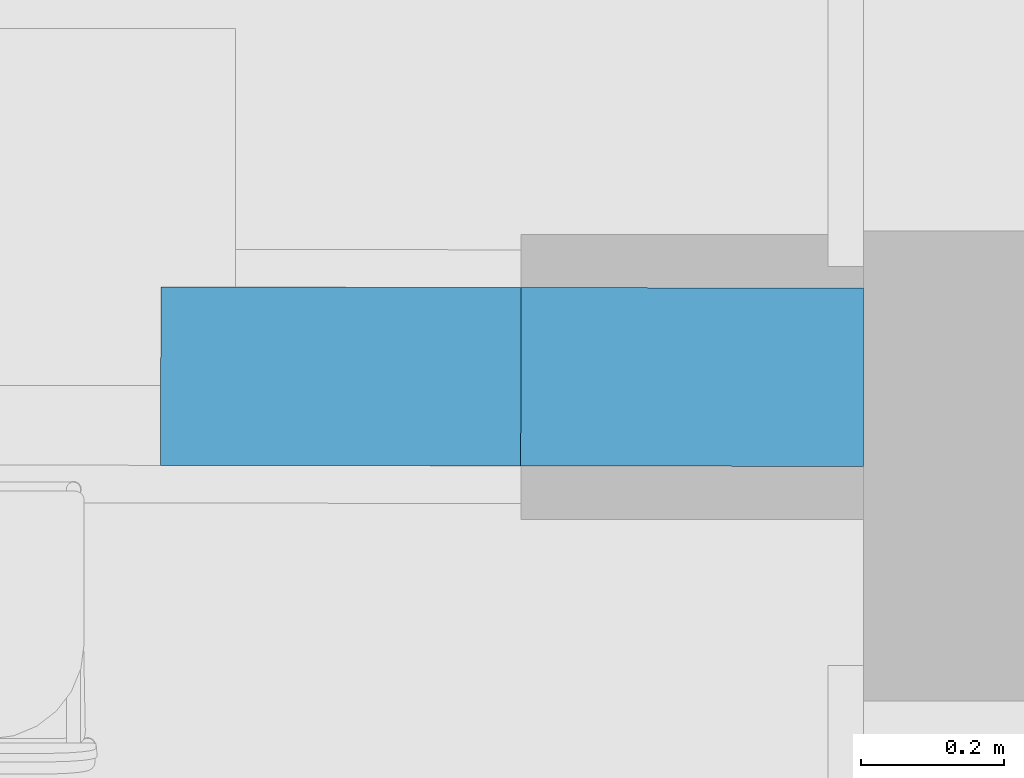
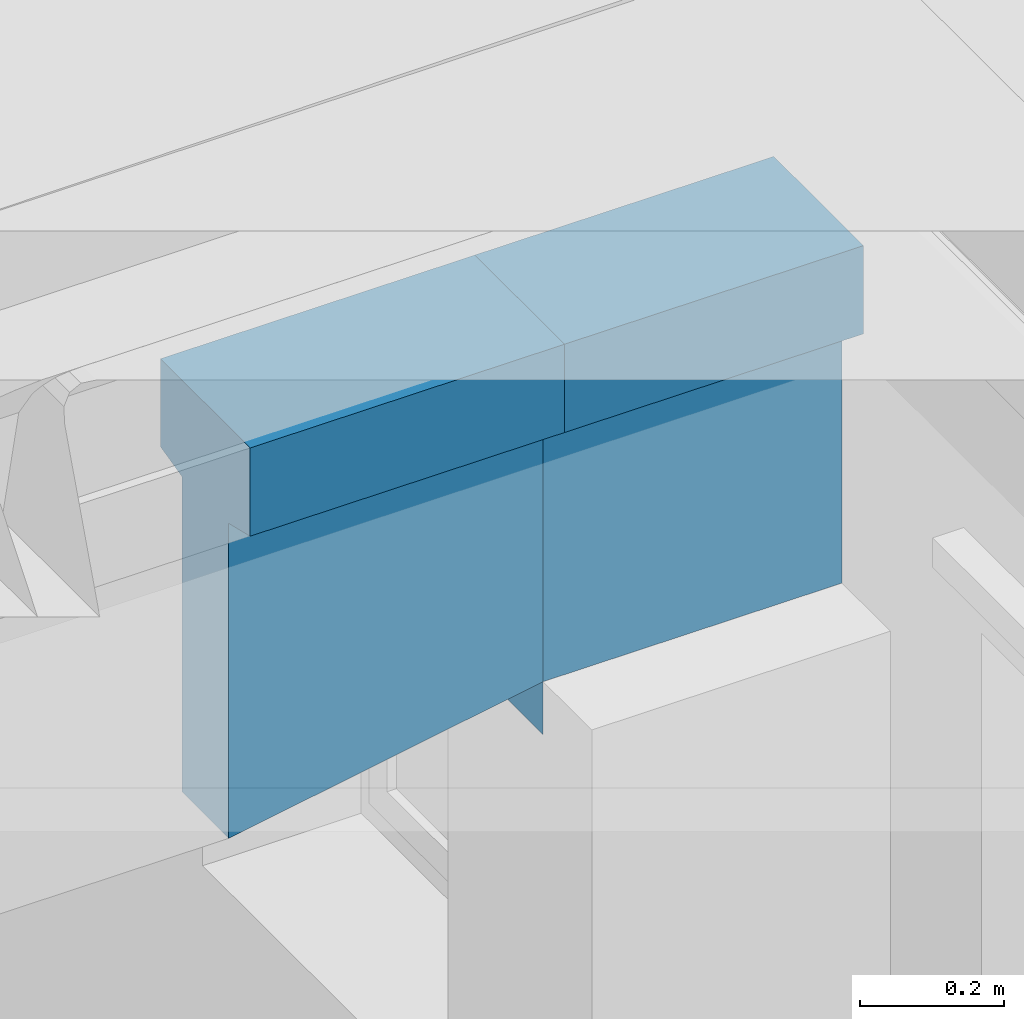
# One storey, part 95 of 153: 2 building element parts, 1 element without a shape of its own.
"""IFC2X3 building model written with IfcOpenShell, lengths in millimetres."""

from ifc_helpers import new_model, entity, si_unit, converted_unit, derived_unit, money_unit, direction, frame, origin_with_axes, place, context, subcontext, project, spatial, faceted_brep, material, type_object, element, aggregate, save


model = new_model("IFC2X3")

# Units and contexts
model_context = context("Model", 3, precision=0.01, world=origin_with_axes(), true_north=direction((0.0, 1.0)))
body_context = subcontext(model_context, "Body", "Model", "MODEL_VIEW")
ifc_project = project(units=[si_unit("LENGTHUNIT", "METRE", prefix="MILLI"), si_unit("AREAUNIT", "SQUARE_METRE"), si_unit("VOLUMEUNIT", "CUBIC_METRE"), converted_unit("PLANEANGLEUNIT", "DEGREE", entity("IfcPlaneAngleMeasure", 0.0174532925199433), si_unit("PLANEANGLEUNIT", "RADIAN"), dimensions=[0, 0, 0, 0, 0, 0, 0]), money_unit("EUR"), converted_unit("TIMEUNIT", "Year", entity("IfcTimeMeasure", 31557600.0), si_unit("TIMEUNIT", "SECOND"), dimensions=[0, 0, 1, 0, 0, 0, 0]), si_unit("MASSUNIT", "GRAM", prefix="KILO"), si_unit("THERMODYNAMICTEMPERATUREUNIT", "DEGREE_CELSIUS"), si_unit("LUMINOUSINTENSITYUNIT", "LUMEN"), si_unit("ENERGYUNIT", "JOULE", prefix="MEGA"), derived_unit("THERMALCONDUCTANCEUNIT", [(si_unit("POWERUNIT", "WATT"), 1), (si_unit("LENGTHUNIT", "METRE"), -1), (si_unit("THERMODYNAMICTEMPERATUREUNIT", "KELVIN"), -1)]), derived_unit("SPECIFICHEATCAPACITYUNIT", [(si_unit("ENERGYUNIT", "JOULE"), 1), (si_unit("MASSUNIT", "GRAM", prefix="KILO"), -1), (si_unit("THERMODYNAMICTEMPERATUREUNIT", "KELVIN"), -1)]), derived_unit("MASSDENSITYUNIT", [(si_unit("MASSUNIT", "GRAM", prefix="KILO"), 1), (si_unit("VOLUMEUNIT", "CUBIC_METRE"), -1)])], contexts=[model_context])

# Site, building, storey
site_placement = place(None, frame((0.0, 0.0, 8650.0), z_axis=(0.0, 0.0, 1.0), x_axis=(1.0, 0.0, 0.0)))
site = spatial("IfcSite", under=ifc_project, at=site_placement, Name="43301:001:0844", CompositionType="ELEMENT")
building_placement = place(site_placement, origin_with_axes())
building = spatial("IfcBuilding", under=site, at=building_placement, Name="Kuressaare Ametikooli tuulikute mehaanikute õppekorpus", CompositionType="ELEMENT")
storey_placement = place(building_placement, frame((0.0, 0.0, 4100.0), z_axis=(0.0, 0.0, 1.0), x_axis=(1.0, 0.0, 0.0)))
storey = spatial("IfcBuildingStorey", under=building, at=storey_placement, Name="2.korrus", CompositionType="ELEMENT", Elevation=4100.0)

# Beam, building element parts
beam_type = type_object("IfcBeamType", Name="Various Structures - 5 Segments - 250 x 700 x 7480 (322+828+5345+505+480)", PredefinedType="NOTDEFINED")
beam_placement = place(storey_placement, frame((95747.90111654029, 32051.05889258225, 2530.0), z_axis=(0.0, 0.0, 1.0), x_axis=(-0.001658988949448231, -0.999998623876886, 0.0)))
beam = element("IfcBeam", 1, at=beam_placement, inside=storey, type_object=beam_type)
ifc_material = material(Name="Raudbetoon")
building_element_part_1_placement = place(beam_placement, origin_with_axes())
building_element_part_1 = element("IfcBuildingElementPart", 2, at=building_element_part_1_placement, material=ifc_material, Name="Raudbetoon", context=body_context, shape_type="Brep", body=[
    faceted_brep([(65.00000000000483, 6999.413341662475, -610.0000000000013), (65.00000000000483, 6999.413341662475, -164.4012678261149), (64.99999999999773, 6494.621383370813, -164.4011476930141), (64.99999999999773, 6494.621383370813, -700.0000000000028), (125.0052826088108, 6999.413341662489, -150.0000000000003), (-64.99999999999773, 6999.413341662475, -610.0000000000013), (-64.99999999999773, 6999.413341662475, -164.4012678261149), (-125.0052826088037, 6999.413341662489, -150.0000000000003), (-125.0054185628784, 6999.413341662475, -75.00000000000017), (-125.0055545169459, 6999.413341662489, 0.0), (125.0055545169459, 6999.413341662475, 0.0), (125.0054185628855, 6999.413341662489, -75.00000000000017), (125.0050323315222, 6747.017362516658, -150.0000000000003), (125.0047820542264, 6494.621383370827, -150.0000000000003), (-64.99999999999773, 6494.621383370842, -164.4011476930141), (-64.99999999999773, 6494.621383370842, -700.0000000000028), (125.004935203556, 6494.621383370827, -75.00000000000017), (125.0050883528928, 6494.621383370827, 0.0), (-125.0050883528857, 6494.621383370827, 0.0), (-125.004935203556, 6494.621383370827, -75.00000000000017), (-125.0047820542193, 6494.621383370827, -150.0000000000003), (-125.0050323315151, 6747.017362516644, -150.0000000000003), (-125.0053214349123, 6747.017362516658, 0.0), (125.0053214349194, 6747.017362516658, 0.0)], [[[0, 1, 2, 3]], [[4, 1, 0, 5, 6, 7, 8, 9, 10, 11]], [[1, 4, 12, 13, 2]], [[14, 15, 3, 2, 13, 16, 17, 18, 19, 20]], [[15, 5, 0, 3]], [[6, 5, 15, 14]], [[7, 6, 14, 20, 21]], [[8, 7, 21]], [[9, 8, 22]], [[10, 9, 22, 18, 17, 23]], [[11, 10, 23]], [[4, 11, 12]], [[12, 16, 13]], [[16, 23, 17]], [[22, 19, 18]], [[19, 21, 20]], [[8, 21, 19, 22]], [[11, 23, 16, 12]]]),
])
building_element_part_2_placement = place(beam_placement, origin_with_axes())
building_element_part_2 = element("IfcBuildingElementPart", 3, at=building_element_part_2_placement, material=ifc_material, Name="Raudbetoon", context=body_context, shape_type="Brep", body=[
    faceted_brep([(3.82982534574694e-09, 7479.621383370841, 0.0), (3.851141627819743e-09, 7479.621383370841, -610.0000000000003), (-65.00000000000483, 7479.51354894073, -610.0000000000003), (-65.00000000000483, 7479.51354894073, -164.4012678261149), (-125.0052826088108, 7479.414000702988, -150.0000000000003), (-125.0055545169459, 7479.414000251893, 0.0), (65.00000000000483, 7479.621383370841, -164.4012678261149), (65.00000000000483, 7479.621383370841, -610.0000000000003), (125.0055545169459, 7479.621383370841, 0.0), (125.0052826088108, 7479.621383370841, -150.0000000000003), (64.99999999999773, 6999.728557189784, -610.0000000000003), (-65.00000000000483, 6999.512888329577, -610.0000000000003), (-64.99999999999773, 6999.512888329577, -699.9999999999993), (-64.99999999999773, 6999.413341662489, -699.9999999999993), (-64.99999999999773, 6999.413341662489, -164.4012678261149), (-125.0052826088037, 6999.413341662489, -150.0000000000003), (-125.0055545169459, 6999.413341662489, 0.0), (125.0055545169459, 6999.413341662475, 0.0), (64.99999999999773, 6999.728557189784, -699.9999999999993), (65.00000000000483, 6999.413341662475, -164.4012678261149), (65.00000000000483, 6999.413341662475, -699.9999999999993), (125.0052826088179, 6999.413341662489, -150.0000000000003)], [[[0, 1, 2, 3, 4, 5]], [[6, 7, 1, 0, 8, 9]], [[10, 11, 2, 1, 7]], [[2, 11, 12, 13, 14, 3]], [[14, 15, 4, 3]], [[15, 16, 5, 4]], [[17, 8, 0, 5, 16]], [[18, 10, 7, 6, 19, 20]], [[8, 17, 21, 9]], [[9, 21, 19, 6]], [[18, 12, 11, 10]], [[13, 12, 18, 20]], [[15, 14, 13, 20, 19, 21, 17, 16]]]),
])
aggregate(beam, [building_element_part_1, building_element_part_2])

save(model, "model.ifc")
